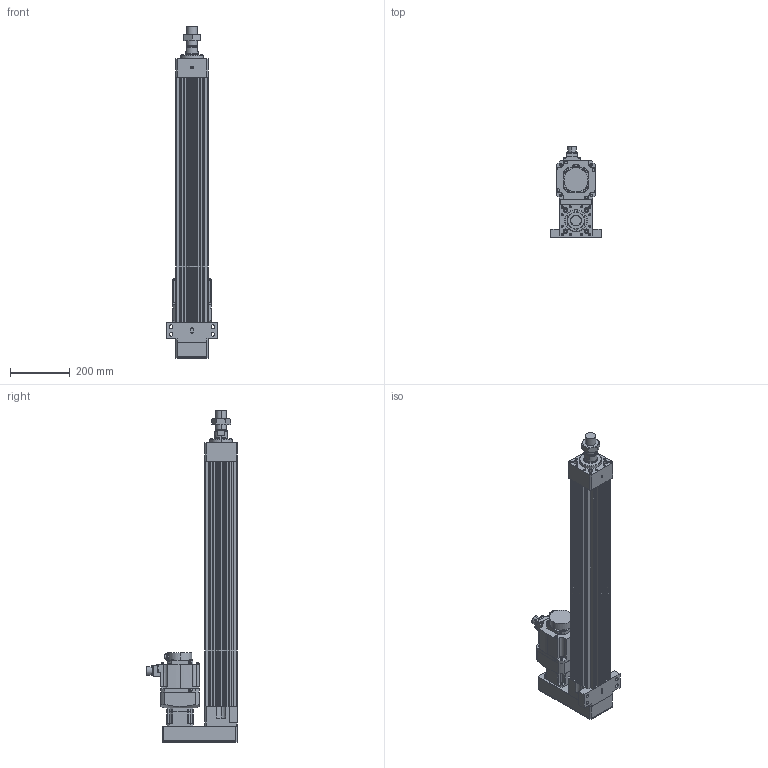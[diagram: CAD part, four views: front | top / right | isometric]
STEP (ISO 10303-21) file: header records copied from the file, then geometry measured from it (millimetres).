
FILE_DESCRIPTION (( 'STEP AP203' ), '1' );
FILE_NAME ('HES110NS(HS)-P650-W010G00-M-FFC.STEP', '2023-01-26T10:26:45', ( 'tms' ), ( '' ), 'SwSTEP 2.0', 'SolidWorks 2013', '' );
FILE_SCHEMA (( 'CONFIG_CONTROL_DESIGN' ));
Length unit declared in the file: millimetre
Products named in the file (8): M36X1.5P; AB0901; AB090-003[HG-SR102B]; HES110 ROD M ST650; HG-SR102; HES110-P650-G090-FFC; P0401301004; HES110NS(HS)-P650-W010G00-M-FFC
Assembly tree (7 placements, depth 3):
  HES110NS(HS)-P650-W010G00-M-FFC
    HES110-P650-G090-FFC
    HES110 ROD M ST650
    M36X1.5P
    AB090-003[HG-SR102B]
      AB0901
      P0401301004
    HG-SR102
Bounding box: 170 x 304.99 x 1113 mm (x, y, z)
Volume: 9578470.2 mm3; surface area: 1277762.9 mm2
Topology: 4 solids, 11 shells, 1111 faces, 2835 edges, 1826 vertices
Faces by surface type: cylinder 519, plane 486, cone 94, bspline 8, torus 4
Entity records: 35472 total; most frequent: CARTESIAN_POINT 6938, DIRECTION 6110, ORIENTED_EDGE 5574, EDGE_CURVE 2797, AXIS2_PLACEMENT_3D 2269, VERTEX_POINT 1826, VECTOR 1572, LINE 1572
